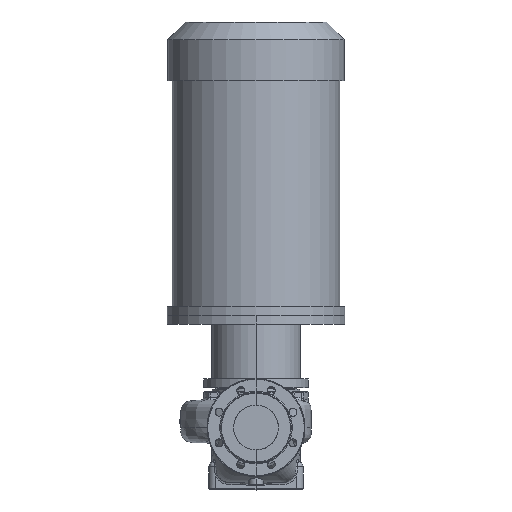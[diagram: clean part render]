
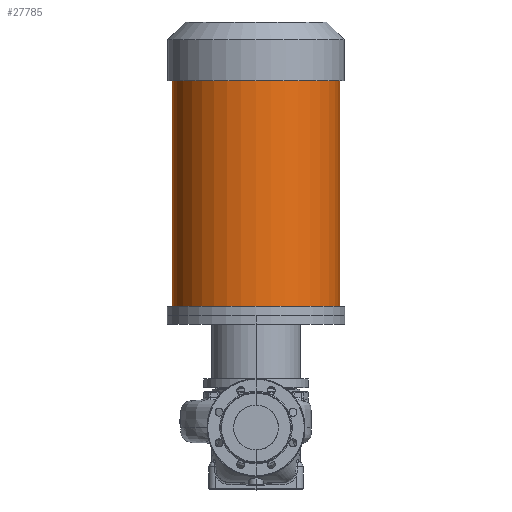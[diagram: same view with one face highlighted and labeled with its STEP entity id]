
A CAD part, top view. The second image highlights one B-rep face of the part: STEP entity #27785.
In plain terms, the highlighted cylindrical face has radius 188.5 mm (diameter 377 mm), a partial arc.
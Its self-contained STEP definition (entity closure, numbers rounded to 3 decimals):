
#860 = DIRECTION ( 'NONE',  ( -1., 0., 0. ) ) ;
#1866 = EDGE_CURVE ( 'NONE', #39870, #61020, #50543, .T. ) ;
#6437 = CARTESIAN_POINT ( 'NONE',  ( -188.5, 780.8, 0. ) ) ;
#9084 = DIRECTION ( 'NONE',  ( -1., 0., 0. ) ) ;
#13307 = CARTESIAN_POINT ( 'NONE',  ( 0., 272.8, 0. ) ) ;
#13606 = EDGE_CURVE ( 'NONE', #29354, #39870, #30613, .T. ) ;
#14859 = DIRECTION ( 'NONE',  ( 0., -1., 0. ) ) ;
#14893 = FACE_OUTER_BOUND ( 'NONE', #45476, .T. ) ;
#15296 = CARTESIAN_POINT ( 'NONE',  ( 188.5, 252.8, 0. ) ) ;
#16604 = DIRECTION ( 'NONE',  ( 0., -1., 0. ) ) ;
#17927 = AXIS2_PLACEMENT_3D ( 'NONE', #26559, #56524, #860 ) ;
#18849 = ORIENTED_EDGE ( 'NONE', *, *, #1866, .T. ) ;
#19702 = DIRECTION ( 'NONE',  ( -1., 0., 0. ) ) ;
#24203 = CARTESIAN_POINT ( 'NONE',  ( -188.5, 252.8, 0. ) ) ;
#26559 = CARTESIAN_POINT ( 'NONE',  ( 0., 780.8, 0. ) ) ;
#27785 = ADVANCED_FACE ( 'NONE', ( #14893 ), #48823, .T. ) ;
#29354 = VERTEX_POINT ( 'NONE', #39296 ) ;
#30433 = EDGE_CURVE ( 'NONE', #29354, #65606, #43700, .T. ) ;
#30613 = CIRCLE ( 'NONE', #17927, 188.5 ) ;
#33381 = AXIS2_PLACEMENT_3D ( 'NONE', #65150, #14859, #19702 ) ;
#34191 = AXIS2_PLACEMENT_3D ( 'NONE', #13307, #44358, #9084 ) ;
#34585 = CARTESIAN_POINT ( 'NONE',  ( -188.5, 272.8, 0. ) ) ;
#34760 = DIRECTION ( 'NONE',  ( 0., -1., 0. ) ) ;
#37135 = VECTOR ( 'NONE', #34760, 1000. ) ;
#38949 = CIRCLE ( 'NONE', #34191, 188.5 ) ;
#38963 = ORIENTED_EDGE ( 'NONE', *, *, #13606, .T. ) ;
#39296 = CARTESIAN_POINT ( 'NONE',  ( 188.5, 780.8, 0. ) ) ;
#39870 = VERTEX_POINT ( 'NONE', #6437 ) ;
#40009 = ORIENTED_EDGE ( 'NONE', *, *, #30433, .F. ) ;
#40470 = ORIENTED_EDGE ( 'NONE', *, *, #60302, .F. ) ;
#40544 = VECTOR ( 'NONE', #16604, 1000. ) ;
#43700 = LINE ( 'NONE', #15296, #40544 ) ;
#44358 = DIRECTION ( 'NONE',  ( 0., -1., 0. ) ) ;
#45476 = EDGE_LOOP ( 'NONE', ( #40009, #38963, #18849, #40470 ) ) ;
#48823 = CYLINDRICAL_SURFACE ( 'NONE', #33381, 188.5 ) ;
#50543 = LINE ( 'NONE', #24203, #37135 ) ;
#56524 = DIRECTION ( 'NONE',  ( 0., -1., 0. ) ) ;
#60302 = EDGE_CURVE ( 'NONE', #65606, #61020, #38949, .T. ) ;
#61020 = VERTEX_POINT ( 'NONE', #34585 ) ;
#61086 = CARTESIAN_POINT ( 'NONE',  ( 188.5, 272.8, 0. ) ) ;
#65150 = CARTESIAN_POINT ( 'NONE',  ( 0., 252.8, 0. ) ) ;
#65606 = VERTEX_POINT ( 'NONE', #61086 ) ;
